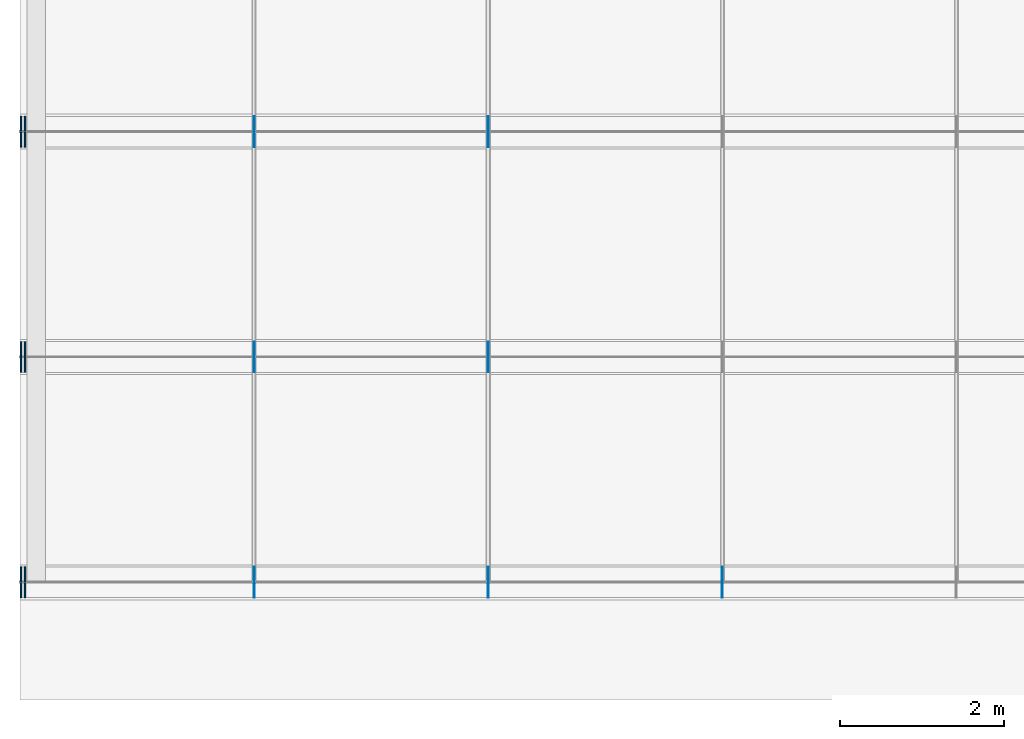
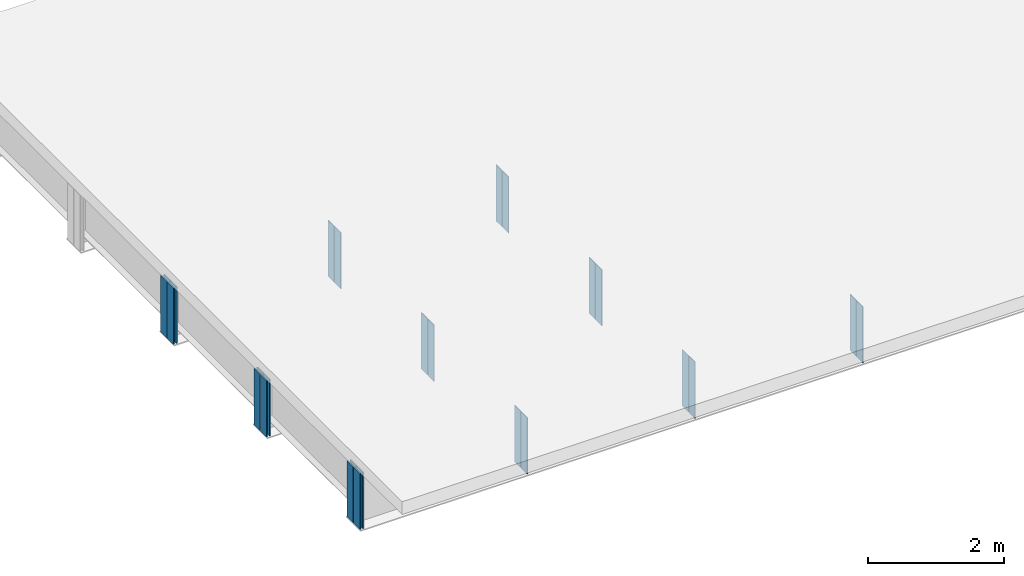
# One storey, part 2 of 12: 26 plates.
"""IFC4 building model written with IfcOpenShell, lengths in metres."""

from ifc_helpers import new_model, si_unit, frame, origin, origin_with_axes, origin_2d_with_axis, place, context, subcontext, project, spatial, rectangle, extrude, element, save


model = new_model("IFC4")

# Units and contexts
model_context = context("Model", 3, precision=1e-05, world=origin())
body_context = subcontext(model_context, "Body", "Model", "MODEL_VIEW")
ifc_project = project(units=[si_unit("LENGTHUNIT", "METRE"), si_unit("AREAUNIT", "SQUARE_METRE"), si_unit("VOLUMEUNIT", "CUBIC_METRE"), si_unit("PLANEANGLEUNIT", "RADIAN")], contexts=[model_context])

# Site, building, storey
site_placement = place(None, origin_with_axes())
site = spatial("IfcSite", under=ifc_project, at=site_placement, Name="Default Site")
building_placement = place(site_placement, origin_with_axes())
building = spatial("IfcBuilding", under=site, at=building_placement, Name="Bridge Structure")
storey_placement = place(building_placement, origin_with_axes())
storey = spatial("IfcBuildingStorey", under=building, at=storey_placement, Name="Superstructure")

# Plates
for number, where, z_axis, x_axis, name in (
    (1, (2.857, -5.4037500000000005, -0.507), (0.0, 0.0, 1.0), (1.0, 0.0, 0.0), "Intermediate Stiffener 1"),
    (2, (2.857, -5.59625, -0.507), (0.0, 0.0, 1.0), (1.0, 0.0, 0.0), "Intermediate Stiffener 1"),
    (3, (5.714, -5.4037500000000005, -0.507), (0.0, 0.0, 1.0), (1.0, 0.0, 0.0), "Intermediate Stiffener 1"),
    (4, (5.714, -5.59625, -0.507), (0.0, 0.0, 1.0), (1.0, 0.0, 0.0), "Intermediate Stiffener 1"),
    (5, (8.571, -5.4037500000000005, -0.507), (0.0, 0.0, 1.0), (1.0, 0.0, 0.0), "Intermediate Stiffener 1"),
    (6, (8.571, -5.59625, -0.507), (0.0, 0.0, 1.0), (1.0, 0.0, 0.0), "Intermediate Stiffener 1"),
):
    element("IfcPlate", number, at=place(storey_placement, frame(where, z_axis=z_axis, x_axis=x_axis)), inside=storey, Name=name, context=body_context, shape_type="SweptSolid", body=[
        extrude(rectangle(XDim=0.012, YDim=0.1825, at=origin_2d_with_axis()), origin_with_axes(), (0.0, 0.0, 1.0), 1.014),
    ])
for number, where, z_axis, x_axis, name in (
    (7, (0.01, -5.4037500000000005, -0.507), (0.0, 0.0, 1.0), (1.0, 0.0, 0.0), "End Stiffener 1"),
    (8, (0.01, -5.59625, -0.507), (0.0, 0.0, 1.0), (1.0, 0.0, 0.0), "End Stiffener 1"),
    (9, (0.06, -5.4037500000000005, -0.507), (0.0, 0.0, 1.0), (1.0, 0.0, 0.0), "End Stiffener 1"),
    (10, (0.06, -5.59625, -0.507), (0.0, 0.0, 1.0), (1.0, 0.0, 0.0), "End Stiffener 1"),
):
    element("IfcPlate", number, at=place(storey_placement, frame(where, z_axis=z_axis, x_axis=x_axis)), inside=storey, Name=name, context=body_context, shape_type="SweptSolid", body=[
        extrude(rectangle(XDim=0.02, YDim=0.1825, at=origin_2d_with_axis()), origin_with_axes(), (0.0, 0.0, 1.0), 1.014),
    ])
for number, where, z_axis, x_axis, name in (
    (11, (2.857, -2.65375, -0.507), (0.0, 0.0, 1.0), (1.0, 0.0, 0.0), "Intermediate Stiffener 2"),
    (12, (2.857, -2.84625, -0.507), (0.0, 0.0, 1.0), (1.0, 0.0, 0.0), "Intermediate Stiffener 2"),
    (13, (5.714, -2.65375, -0.507), (0.0, 0.0, 1.0), (1.0, 0.0, 0.0), "Intermediate Stiffener 2"),
    (14, (5.714, -2.84625, -0.507), (0.0, 0.0, 1.0), (1.0, 0.0, 0.0), "Intermediate Stiffener 2"),
):
    element("IfcPlate", number, at=place(storey_placement, frame(where, z_axis=z_axis, x_axis=x_axis)), inside=storey, Name=name, context=body_context, shape_type="SweptSolid", body=[
        extrude(rectangle(XDim=0.012, YDim=0.1825, at=origin_2d_with_axis()), origin_with_axes(), (0.0, 0.0, 1.0), 1.014),
    ])
for number, where, z_axis, x_axis, name in (
    (15, (0.01, -2.65375, -0.507), (0.0, 0.0, 1.0), (1.0, 0.0, 0.0), "End Stiffener 2"),
    (16, (0.01, -2.84625, -0.507), (0.0, 0.0, 1.0), (1.0, 0.0, 0.0), "End Stiffener 2"),
    (17, (0.06, -2.65375, -0.507), (0.0, 0.0, 1.0), (1.0, 0.0, 0.0), "End Stiffener 2"),
    (18, (0.06, -2.84625, -0.507), (0.0, 0.0, 1.0), (1.0, 0.0, 0.0), "End Stiffener 2"),
):
    element("IfcPlate", number, at=place(storey_placement, frame(where, z_axis=z_axis, x_axis=x_axis)), inside=storey, Name=name, context=body_context, shape_type="SweptSolid", body=[
        extrude(rectangle(XDim=0.02, YDim=0.1825, at=origin_2d_with_axis()), origin_with_axes(), (0.0, 0.0, 1.0), 1.014),
    ])
for number, where, z_axis, x_axis, name in (
    (19, (2.857, 0.09625, -0.507), (0.0, 0.0, 1.0), (1.0, 0.0, 0.0), "Intermediate Stiffener 3"),
    (20, (2.857, -0.09625, -0.507), (0.0, 0.0, 1.0), (1.0, 0.0, 0.0), "Intermediate Stiffener 3"),
    (21, (5.714, 0.09625, -0.507), (0.0, 0.0, 1.0), (1.0, 0.0, 0.0), "Intermediate Stiffener 3"),
    (22, (5.714, -0.09625, -0.507), (0.0, 0.0, 1.0), (1.0, 0.0, 0.0), "Intermediate Stiffener 3"),
):
    element("IfcPlate", number, at=place(storey_placement, frame(where, z_axis=z_axis, x_axis=x_axis)), inside=storey, Name=name, context=body_context, shape_type="SweptSolid", body=[
        extrude(rectangle(XDim=0.012, YDim=0.1825, at=origin_2d_with_axis()), origin_with_axes(), (0.0, 0.0, 1.0), 1.014),
    ])
for number, where, z_axis, x_axis, name in (
    (23, (0.01, 0.09625, -0.507), (0.0, 0.0, 1.0), (1.0, 0.0, 0.0), "End Stiffener 3"),
    (24, (0.01, -0.09625, -0.507), (0.0, 0.0, 1.0), (1.0, 0.0, 0.0), "End Stiffener 3"),
    (25, (0.06, 0.09625, -0.507), (0.0, 0.0, 1.0), (1.0, 0.0, 0.0), "End Stiffener 3"),
    (26, (0.06, -0.09625, -0.507), (0.0, 0.0, 1.0), (1.0, 0.0, 0.0), "End Stiffener 3"),
):
    element("IfcPlate", number, at=place(storey_placement, frame(where, z_axis=z_axis, x_axis=x_axis)), inside=storey, Name=name, context=body_context, shape_type="SweptSolid", body=[
        extrude(rectangle(XDim=0.02, YDim=0.1825, at=origin_2d_with_axis()), origin_with_axes(), (0.0, 0.0, 1.0), 1.014),
    ])

save(model, "model.ifc")
